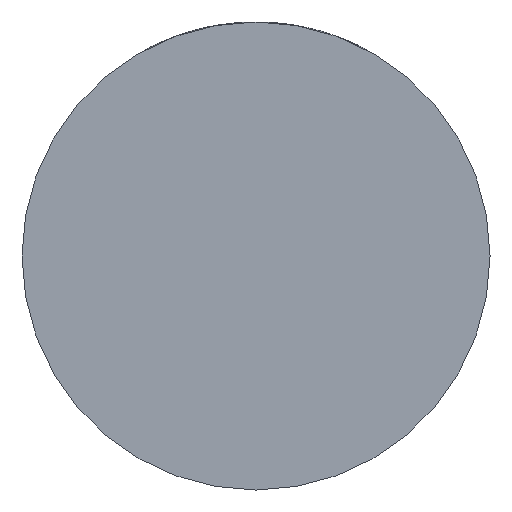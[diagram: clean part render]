
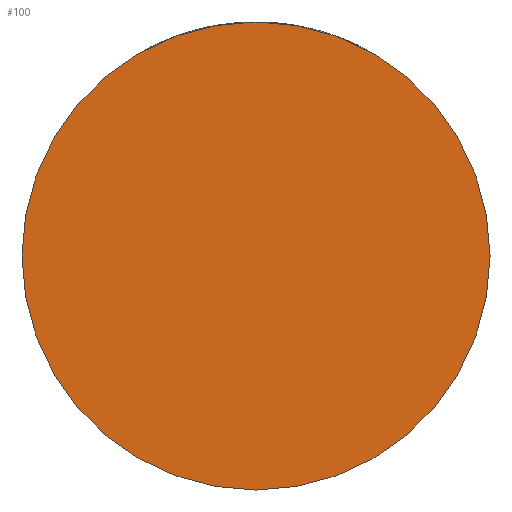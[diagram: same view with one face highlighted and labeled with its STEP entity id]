
A CAD part, front view. The second image highlights one B-rep face of the part: STEP entity #100.
In plain terms, the highlighted planar face has unit normal (0, -1, 0).
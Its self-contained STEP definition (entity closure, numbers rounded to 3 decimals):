
#100 = ADVANCED_FACE ( 'NONE', ( #1867 ), #4067, .T. ) ;
#587 = CARTESIAN_POINT ( 'NONE',  ( 0., -42., 0. ) ) ;
#645 = VERTEX_POINT ( 'NONE', #2409 ) ;
#708 = AXIS2_PLACEMENT_3D ( 'NONE', #587, #4521, #3814 ) ;
#763 = EDGE_LOOP ( 'NONE', ( #3842, #4356 ) ) ;
#1215 = DIRECTION ( 'NONE',  ( 0., -1., 0. ) ) ;
#1678 = EDGE_CURVE ( 'NONE', #645, #1781, #4552, .T. ) ;
#1753 = AXIS2_PLACEMENT_3D ( 'NONE', #4366, #1215, #2650 ) ;
#1781 = VERTEX_POINT ( 'NONE', #3765 ) ;
#1867 = FACE_OUTER_BOUND ( 'NONE', #763, .T. ) ;
#2282 = CARTESIAN_POINT ( 'NONE',  ( 0., -42., 0. ) ) ;
#2409 = CARTESIAN_POINT ( 'NONE',  ( -49., -42., 0. ) ) ;
#2586 = DIRECTION ( 'NONE',  ( 0., -1., 0. ) ) ;
#2650 = DIRECTION ( 'NONE',  ( 1., 0., 0. ) ) ;
#2724 = EDGE_CURVE ( 'NONE', #1781, #645, #4270, .T. ) ;
#3761 = AXIS2_PLACEMENT_3D ( 'NONE', #2282, #2586, #4326 ) ;
#3765 = CARTESIAN_POINT ( 'NONE',  ( 49., -42., 0. ) ) ;
#3814 = DIRECTION ( 'NONE',  ( 1., 0., 0. ) ) ;
#3842 = ORIENTED_EDGE ( 'NONE', *, *, #1678, .T. ) ;
#4067 = PLANE ( 'NONE',  #3761 ) ;
#4270 = CIRCLE ( 'NONE', #1753, 49. ) ;
#4326 = DIRECTION ( 'NONE',  ( 1., 0., 0. ) ) ;
#4356 = ORIENTED_EDGE ( 'NONE', *, *, #2724, .T. ) ;
#4366 = CARTESIAN_POINT ( 'NONE',  ( 0., -42., 0. ) ) ;
#4521 = DIRECTION ( 'NONE',  ( 0., -1., 0. ) ) ;
#4552 = CIRCLE ( 'NONE', #708, 49. ) ;
